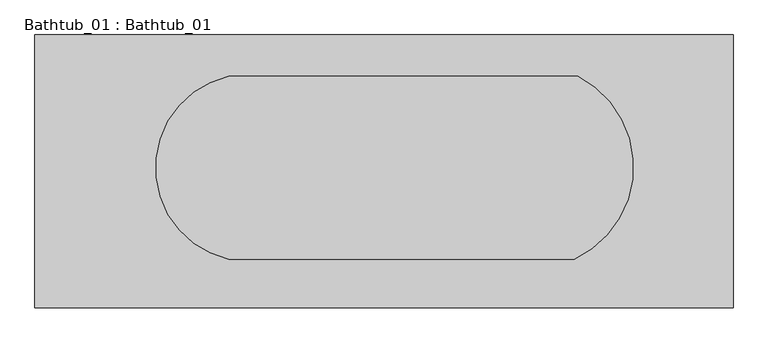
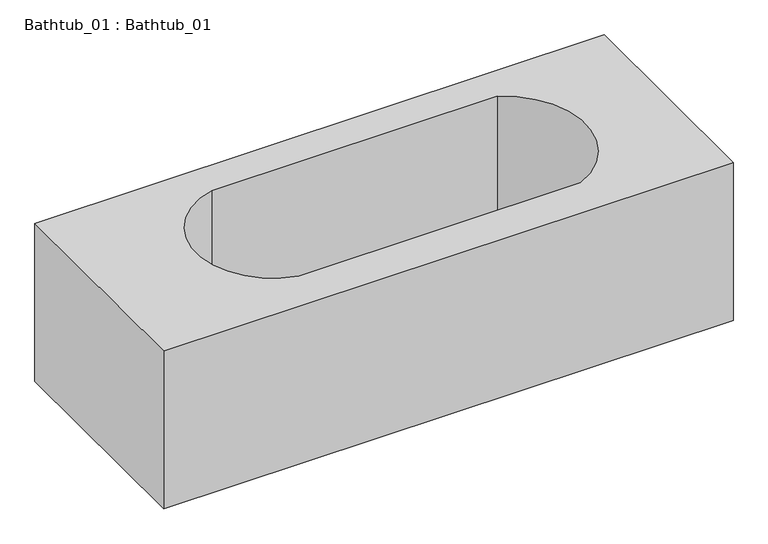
"""IFC4 building model written with IfcOpenShell, lengths in millimetres: flow terminal geometry, Bathtub_01 : Bathtub_01."""

import ifcopenshell
import ifcopenshell.guid

model = None  # the IFC model being written
_history = None  # IfcOwnerHistory: only IFC2X3 demands one
_inside = {}  # id of a spatial element -> (the spatial element, [elements in it])
_under = {}  # id of a project, library or spatial element -> (it, [spatial elements below it])
_declared = {}  # id of a project -> (the project, [libraries it declares])
_typed = {}  # id of a type object -> (the type object, [elements of that type])
_made_of = {}  # id of a material, layer set ... -> (it, [elements and type objects made of it])


def new_model(schema):
    """Start an empty IFC model of exactly this schema.

    Asked for "IFC4X3", IfcOpenShell would pick the latest addendum, in which some entities
    have other attributes; the version numbers below select the first issue.
    IFC2X3 requires an IfcOwnerHistory on every rooted entity: one is made here for all.
    """
    global model, _history
    if schema == "IFC4X3":
        model = ifcopenshell.file(schema_version=(4, 3, 0, 0))
    else:
        model = ifcopenshell.file(schema=schema)
    _inside.clear()
    _under.clear()
    _declared.clear()
    _typed.clear()
    _made_of.clear()
    _history = None
    if model.schema == "IFC2X3":
        org = make("IfcOrganization", Name="unknown")
        user = make(
            "IfcPersonAndOrganization",
            ThePerson=make("IfcPerson", FamilyName="unknown"),
            TheOrganization=org,
        )
        app = make(
            "IfcApplication",
            ApplicationDeveloper=org,
            Version="unknown",
            ApplicationFullName="unknown",
            ApplicationIdentifier="unknown",
        )
        _history = make(
            "IfcOwnerHistory",
            OwningUser=user,
            OwningApplication=app,
            ChangeAction="ADDED",
            CreationDate=0,
        )
    return model


def make(cls, **values):
    """One entity of the class cls with the attributes given. An attribute that is None is left unset."""
    return model.create_entity(
        cls, **{name: value for name, value in values.items() if value is not None}
    )


def rooted(cls, **values):
    """An entity with a GlobalId (a new one), such as an element, a storey or a relation."""
    return make(cls, GlobalId=ifcopenshell.guid.new(), OwnerHistory=_history, **values)


def si_unit(unit_type, name, prefix=None):
    """IfcSIUnit, for example si_unit("LENGTHUNIT", "METRE", prefix="MILLI")."""
    return make("IfcSIUnit", UnitType=unit_type, Prefix=prefix, Name=name)


def assignment(units):
    """IfcUnitAssignment: the units of a project."""
    return None if units is None else make("IfcUnitAssignment", Units=units)


def point(xyz):
    """IfcCartesianPoint."""
    return None if xyz is None else make("IfcCartesianPoint", Coordinates=xyz)


def direction(xyz):
    """IfcDirection."""
    return None if xyz is None else make("IfcDirection", DirectionRatios=xyz)


def frame(location, z_axis=None, x_axis=None):
    """IfcAxis2Placement3D, a coordinate frame: its origin and axes. An axis left out is left unset."""
    return make(
        "IfcAxis2Placement3D",
        Location=point(location),
        Axis=direction(z_axis),
        RefDirection=direction(x_axis),
    )


def origin():
    """The frame at (0, 0, 0) with its axes left unset."""
    return frame((0.0, 0.0, 0.0))


def place(relative_to, where):
    """IfcLocalPlacement: puts the frame where relative to a parent placement (None: the world)."""
    return make(
        "IfcLocalPlacement", PlacementRelTo=relative_to, RelativePlacement=where
    )


def context(
    kind, dimensions, precision=None, world=None, true_north=None, identifier=None
):
    """IfcGeometricRepresentationContext, for example the 3D "Model" context."""
    return make(
        "IfcGeometricRepresentationContext",
        ContextIdentifier=identifier,
        ContextType=kind,
        CoordinateSpaceDimension=dimensions,
        Precision=precision,
        WorldCoordinateSystem=world,
        TrueNorth=true_north,
    )


def project(units=None, contexts=None):
    """IfcProject with its units and contexts."""
    return rooted(
        "IfcProject",
        Name="project",
        RepresentationContexts=contexts,
        UnitsInContext=assignment(units),
    )


def spatial(cls, under=None, at=None, **own):
    """A site, building, storey or space (cls), placed at a placement, below another one or the project."""
    s = rooted(cls, ObjectPlacement=at, **own)
    if under is not None:
        _under.setdefault(under.id(), (under, []))[1].append(s)
    return s


def polyline(points):
    """IfcPolyline through the points."""
    return make("IfcPolyline", Points=[point(p) for p in points])


def circle_curve(where, radius):
    """IfcCircle in the frame where."""
    return make("IfcCircle", Position=where, Radius=radius)


def shape(context_of_items, identifier, shape_type, items):
    """IfcShapeRepresentation: the items that make up one representation, for example the "Body"."""
    return make(
        "IfcShapeRepresentation",
        ContextOfItems=context_of_items,
        RepresentationIdentifier=identifier,
        RepresentationType=shape_type,
        Items=items,
    )


def source(mapping_origin, context_of_items, identifier, shape_type, items):
    """IfcRepresentationMap: a shape defined once, which mapped items show again and again."""
    return make(
        "IfcRepresentationMap",
        MappingOrigin=mapping_origin,
        MappedRepresentation=shape(context_of_items, identifier, shape_type, items),
    )


def transform(
    local_origin,
    x_axis=None,
    y_axis=None,
    z_axis=None,
    scale=None,
    scale2=None,
    scale3=None,
    uniform=True,
):
    """IfcCartesianTransformationOperator3D, or its non-uniform kind. x_axis, y_axis, z_axis: its Axis1, 2, 3."""
    if uniform:
        return make(
            "IfcCartesianTransformationOperator3D",
            Axis1=direction(x_axis),
            Axis2=direction(y_axis),
            LocalOrigin=point(local_origin),
            Scale=scale,
            Axis3=direction(z_axis),
        )
    return make(
        "IfcCartesianTransformationOperator3DnonUniform",
        Axis1=direction(x_axis),
        Axis2=direction(y_axis),
        LocalOrigin=point(local_origin),
        Scale=scale,
        Axis3=direction(z_axis),
        Scale2=scale2,
        Scale3=scale3,
    )


def mapped(mapping_source, mapping_target):
    """IfcMappedItem: shows the shape of a source again, moved by a transform."""
    return make(
        "IfcMappedItem", MappingSource=mapping_source, MappingTarget=mapping_target
    )


def made_of(thing, what):
    """Note that an element or type object is made of a material, layer set ...; save() writes the relation."""
    if what is not None:
        _made_of.setdefault(what.id(), (what, []))[1].append(thing)
    return thing


def element(
    cls,
    number,
    at=None,
    inside=None,
    cuts=None,
    type_object=None,
    material=None,
    context=None,
    identifier="Body",
    shape_type=None,
    held_by="IfcProductDefinitionShape",
    body=None,
    shapes=None,
    **own,
):
    """One element of the class cls, such as IfcWall. Its Tag is "e" and its number.

    at: its placement. inside: the storey or other place that contains it. cuts: it is an
    opening in that element (IfcRelVoidsElement). A single representation is given by context,
    identifier, shape_type and body (its items); several are given by shapes. held_by: the class
    of the entity that holds the representations. save() writes the other relations.
    """
    e = rooted(cls, Tag="e%d" % number, ObjectPlacement=at, **own)
    if body is not None:
        shapes = [shape(context, identifier, shape_type, body)]
    if shapes is not None:
        e.Representation = make(held_by, Representations=shapes)
    if inside is not None:
        _inside.setdefault(inside.id(), (inside, []))[1].append(e)
    if cuts is not None:
        rooted(
            "IfcRelVoidsElement", RelatingBuildingElement=cuts, RelatedOpeningElement=e
        )
    if type_object is not None:
        _typed.setdefault(type_object.id(), (type_object, []))[1].append(e)
    return made_of(e, material)


def aggregate(whole, parts):
    """IfcRelAggregates: a whole, such as a stair, and the parts it consists of."""
    return rooted("IfcRelAggregates", RelatingObject=whole, RelatedObjects=parts)


def save(model, path):
    """Write the relations noted so far, then the file.

    IfcRelAggregates (storeys below a building ...), IfcRelContainedInSpatialStructure (elements
    in a storey), IfcRelDefinesByType, IfcRelAssociatesMaterial and IfcRelDeclares: one each for
    every whole, place, type object, material and project.
    """
    for whole, parts in _under.values():
        aggregate(whole, parts)
    for where, things in _inside.values():
        rooted(
            "IfcRelContainedInSpatialStructure",
            RelatedElements=things,
            RelatingStructure=where,
        )
    for kind, things in _typed.values():
        rooted("IfcRelDefinesByType", RelatedObjects=things, RelatingType=kind)
    for what, things in _made_of.values():
        rooted("IfcRelAssociatesMaterial", RelatedObjects=things, RelatingMaterial=what)
    for by, libraries in _declared.values():
        rooted("IfcRelDeclares", RelatingContext=by, RelatedDefinitions=libraries)
    model.write(path)


def plane_surface(at):
    """IfcPlane: the flat surface through the origin of the frame at, square to its z axis."""
    return make("IfcPlane", Position=at)


def revolved_surface(curve, axis_point, axis_direction):
    """IfcSurfaceOfRevolution: the curve turned about the line through axis_point along axis_direction."""
    return make(
        "IfcSurfaceOfRevolution",
        SweptCurve=make("IfcArbitraryOpenProfileDef", ProfileType="CURVE", Curve=curve),
        AxisPosition=make("IfcAxis1Placement", Location=point(axis_point), Axis=direction(axis_direction)),
    )


def advanced_brep(points, edges, surfaces, faces):
    """IfcAdvancedBrep: a solid bounded by faces that lie on surfaces and meet in shared edges.

    An edge is (start, end): straight between two places in points (the first is 0);
    or (start, end, curve); or (start, end, curve, False) where it runs against its curve.
    A face is (place in surfaces, loops), or (place, loops, False) where it looks against
    its surface's normal. A loop lists edges by number (the first is 1), with a minus sign
    where the edge is run from its end to its start. The first loop is the outer one.
    """
    corners = [point(p) for p in points]
    vertices = [make("IfcVertexPoint", VertexGeometry=c) for c in corners]
    made = []
    for start, end, *more in edges:
        made.append(
            make(
                "IfcEdgeCurve",
                EdgeStart=vertices[start],
                EdgeEnd=vertices[end],
                EdgeGeometry=more[0] if more else make("IfcPolyline", Points=[corners[start], corners[end]]),
                SameSense=more[1] if len(more) > 1 else True,
            )
        )
    hull = []
    for where, loops, *sense in faces:
        bounds = []
        for j, loop in enumerate(loops):
            ring = [make("IfcOrientedEdge", EdgeElement=made[abs(k) - 1], Orientation=k > 0) for k in loop]
            bounds.append(
                make(
                    "IfcFaceOuterBound" if j == 0 else "IfcFaceBound",
                    Bound=make("IfcEdgeLoop", EdgeList=ring),
                    Orientation=True,
                )
            )
        hull.append(make("IfcAdvancedFace", Bounds=bounds, FaceSurface=surfaces[where], SameSense=sense[0] if sense else True))
    return make("IfcAdvancedBrep", Outer=make("IfcClosedShell", CfsFaces=hull))


def bathtub_01_bathtub_01_98538b22(model_context):
    return source(origin(), model_context, "Body", "AdvancedBrep", [
        advanced_brep(
        [(4177.3010582, 18050.5978406, 8690.4670848), (2097.3010582, 18050.5978406, 8690.4670848), (2097.3010582, 17237.2269098, 8690.4670848), (4177.3010582, 17237.2269098, 8690.4670848), (2674.1896218, 17927.3257179, 8690.4670848), (3713.8967113, 17927.3257179, 8690.4670848), (3703.4934648, 17382.3257179, 8690.4670848), (2674.1896218, 17382.3257179, 8690.4670848), (4177.3010582, 18050.5978406, 8080.0), (4177.3010582, 17237.2269098, 8080.0), (2097.3010582, 17237.2269098, 8080.0), (2097.3010582, 18050.5978406, 8080.0), (2674.1896218, 17927.3257179, 8226.0418346), (3713.8967113, 17927.3257179, 8226.0418346), (3703.4934648, 17382.3257179, 8226.0418346), (2674.1896218, 17382.3257179, 8226.0418346)],
        [
            (0, 1),
            (1, 2),
            (2, 3),
            (3, 0),
            (4, 5),
            (5, 6, circle_curve(frame((3577.7263556, 17657.3257179, 8690.4670848), z_axis=(0.0, 0.0, -1.0), x_axis=(1.0, 0.0, 0.0)), 302.3943878)),
            (6, 7),
            (7, 4, circle_curve(frame((2736.7437684, 17654.8257179, 8690.4670848), z_axis=(0.0, 0.0, -1.0), x_axis=(1.0, 0.0, 0.0)), 279.5876808)),
            (8, 9),
            (9, 10),
            (10, 11),
            (11, 8),
            (0, 8),
            (11, 1),
            (10, 2),
            (9, 3),
            (12, 13),
            (13, 5),
            (4, 12),
            (14, 15),
            (15, 7),
            (6, 14),
            (13, 14, circle_curve(frame((3577.7263556, 17657.3257179, 8226.0418346), z_axis=(0.0, 0.0, -1.0), x_axis=(1.0, 0.0, 0.0)), 302.3943878)),
            (12, 15, circle_curve(frame((2736.7437684, 17654.8257179, 8226.0418346), z_axis=(0.0, 0.0, 1.0), x_axis=(1.0, 0.0, 0.0)), 279.5876808)),
        ],
        [
            plane_surface(frame((2113.7470542, 18050.5978406, 8690.4670848), z_axis=(0.0, 0.0, 1.0), x_axis=(-1.0, 0.0, 0.0))),
            plane_surface(frame((2113.7470542, 18050.5978406, 8080.0), z_axis=(0.0, 0.0, -1.0), x_axis=(1.0, 0.0, 0.0))),
            plane_surface(frame((4177.3010582, 18050.5978406, 8690.4670848), z_axis=(0.0, 1.0, 0.0), x_axis=(0.0, 0.0, -1.0))),
            plane_surface(frame((2097.3010582, 18050.5978406, 8690.4670848), z_axis=(-1.0, 0.0, 0.0), x_axis=(0.0, 0.0, -1.0))),
            plane_surface(frame((2097.3010582, 17237.2269098, 8690.4670848), z_axis=(0.0, -1.0, 0.0), x_axis=(0.0, 0.0, -1.0))),
            plane_surface(frame((4177.3010582, 17237.2269098, 8690.4670848), z_axis=(1.0, 0.0, 0.0), x_axis=(0.0, 0.0, -1.0))),
            plane_surface(frame((3713.8967113, 17927.3257179, 8727.7869709), z_axis=(0.0, -1.0, 0.0), x_axis=(0.0, 0.0, -1.0))),
            plane_surface(frame((2674.1896218, 17382.3257179, 8727.7869709), z_axis=(0.0, 1.0, 0.0), x_axis=(0.0, 0.0, -1.0))),
            revolved_surface(polyline([(3880.1207434, 17657.3257179, 8690.4670848), (3880.1207434, 17657.3257179, 8226.0418346)]), (3577.7263556, 17657.3257179, 8226.0418346), (0.0, 0.0, 1.0)),
            plane_surface(frame((2504.1896218, 17927.3257179, 8226.0418346), z_axis=(0.0, 0.0, 1.0), x_axis=(1.0, 0.0, 0.0))),
            revolved_surface(polyline([(3016.3314492, 17654.8257179, 8690.4670848), (3016.3314492, 17654.8257179, 8226.0418346)]), (2736.7437684, 17654.8257179, 8226.0418346), (0.0, 0.0, 1.0)),
        ],
        [
            (0, [[1, 2, 3, 4], [5, 6, 7, 8]]),
            (1, [[9, 10, 11, 12]]),
            (2, [[-1, 13, -12, 14]]),
            (3, [[-2, -14, -11, 15]]),
            (4, [[-3, -15, -10, 16]]),
            (5, [[-4, -16, -9, -13]]),
            (6, [[17, 18, -5, 19]]),
            (7, [[20, 21, -7, 22]]),
            (8, [[23, -22, -6, -18]]),
            (9, [[-17, 24, -20, -23]]),
            (10, [[-24, -19, -8, -21]]),
        ],
    ),
    ])


if __name__ == "__main__":
    model = new_model("IFC4")
    model_context = context("Model", 3, world=origin())
    ifc_project = project(units=[si_unit("LENGTHUNIT", "METRE", prefix="MILLI")], contexts=[model_context])
    site = spatial("IfcSite", under=ifc_project)
    building = spatial("IfcBuilding", under=site)
    placement = place(None, origin())
    bathtub_01_bathtub_01_shape = bathtub_01_bathtub_01_98538b22(model_context)
    element("IfcFlowTerminal", 1, ObjectType="Bathtub_01 : Bathtub_01", at=placement, inside=building, context=model_context, shape_type="MappedRepresentation", body=[
        mapped(bathtub_01_bathtub_01_shape, transform((0.0, 0.0, 0.0), x_axis=(1.0, 0.0, 0.0), y_axis=(0.0, 1.0, 0.0), z_axis=(0.0, 0.0, 1.0))),
    ])
    save(model, "model.ifc")
